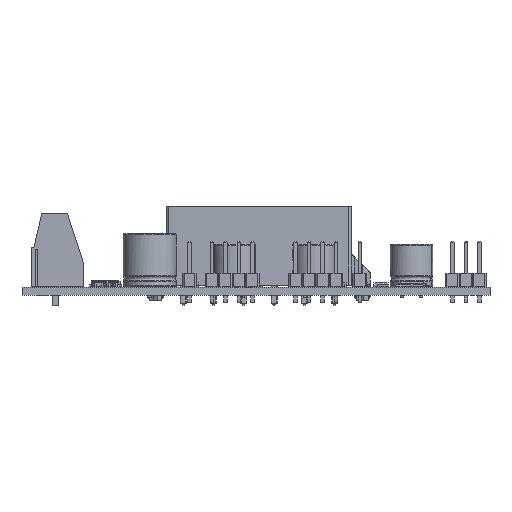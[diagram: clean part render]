
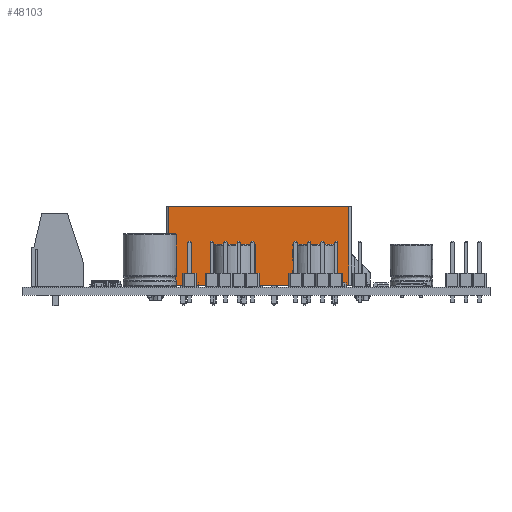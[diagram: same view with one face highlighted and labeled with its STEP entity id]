
A CAD part, front view. The second image highlights one B-rep face of the part: STEP entity #48103.
In plain terms, the highlighted planar face has unit normal (0, -1, 0).
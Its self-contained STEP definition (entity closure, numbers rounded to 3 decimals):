
#44269 = VERTEX_POINT('',#44270);
#44270 = CARTESIAN_POINT('',(-41.164,-2.919,-2.127));
#44277 = EDGE_CURVE('',#44269,#44278,#44280,.T.);
#44278 = VERTEX_POINT('',#44279);
#44279 = CARTESIAN_POINT('',(-7.314,-2.919,-2.127));
#44280 = LINE('',#44281,#44282);
#44281 = CARTESIAN_POINT('',(-41.164,-2.919,-2.127));
#44282 = VECTOR('',#44283,1.);
#44283 = DIRECTION('',(1.,0.,0.));
#45360 = VERTEX_POINT('',#45361);
#45361 = CARTESIAN_POINT('',(-7.314,-2.919,12.673));
#45368 = EDGE_CURVE('',#45360,#45369,#45371,.T.);
#45369 = VERTEX_POINT('',#45370);
#45370 = CARTESIAN_POINT('',(-41.164,-2.919,12.673));
#45371 = LINE('',#45372,#45373);
#45372 = CARTESIAN_POINT('',(-7.314,-2.919,12.673));
#45373 = VECTOR('',#45374,1.);
#45374 = DIRECTION('',(-1.,0.,0.));
#48091 = EDGE_CURVE('',#44269,#45369,#48092,.T.);
#48092 = LINE('',#48093,#48094);
#48093 = CARTESIAN_POINT('',(-41.164,-2.919,-2.127));
#48094 = VECTOR('',#48095,1.);
#48095 = DIRECTION('',(0.,0.,1.));
#48103 = ADVANCED_FACE('',(#48104),#48115,.T.);
#48104 = FACE_BOUND('',#48105,.F.);
#48105 = EDGE_LOOP('',(#48106,#48107,#48108,#48114));
#48106 = ORIENTED_EDGE('',*,*,#48091,.T.);
#48107 = ORIENTED_EDGE('',*,*,#45368,.F.);
#48108 = ORIENTED_EDGE('',*,*,#48109,.T.);
#48109 = EDGE_CURVE('',#45360,#44278,#48110,.T.);
#48110 = LINE('',#48111,#48112);
#48111 = CARTESIAN_POINT('',(-7.314,-2.919,12.673));
#48112 = VECTOR('',#48113,1.);
#48113 = DIRECTION('',(0.,0.,-1.));
#48114 = ORIENTED_EDGE('',*,*,#44277,.F.);
#48115 = PLANE('',#48116);
#48116 = AXIS2_PLACEMENT_3D('',#48117,#48118,#48119);
#48117 = CARTESIAN_POINT('',(-30.114,-2.919,12.343));
#48118 = DIRECTION('',(0.,-1.,0.));
#48119 = DIRECTION('',(-1.,0.,0.));
